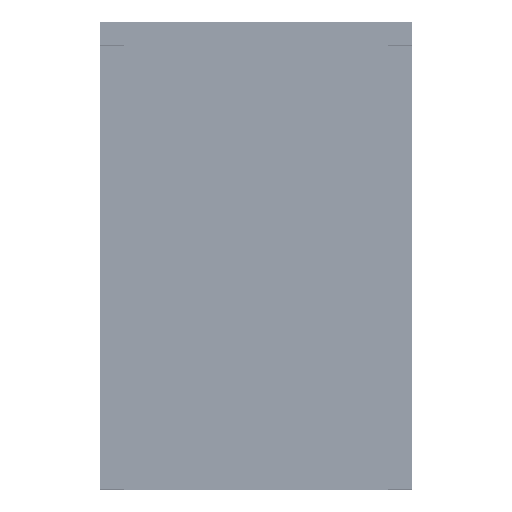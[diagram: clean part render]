
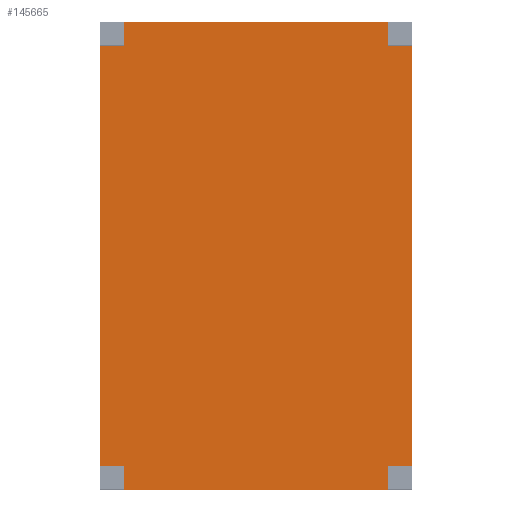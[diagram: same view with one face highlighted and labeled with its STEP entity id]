
A CAD part, top view. The second image highlights one B-rep face of the part: STEP entity #145665.
In plain terms, the highlighted planar face has unit normal (0, 0, 1) as drawn and (0, -1, 0) by its records, which use the part's own axes.
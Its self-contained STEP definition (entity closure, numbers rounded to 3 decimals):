
#14181=FACE_OUTER_BOUND('',#24875,.T.);
#24875=EDGE_LOOP('',(#102689,#102690,#102691,#102692,#102693,#102694,#102695,
#102696,#102697,#102698,#102699,#102700));
#44791=LINE('',#229177,#54977);
#44794=LINE('',#229183,#54980);
#44797=LINE('',#229189,#54983);
#44800=LINE('',#229195,#54986);
#44803=LINE('',#229201,#54989);
#44806=LINE('',#229207,#54992);
#44809=LINE('',#229213,#54995);
#44812=LINE('',#229219,#54998);
#44815=LINE('',#229225,#55001);
#44818=LINE('',#229231,#55004);
#44821=LINE('',#229237,#55007);
#44824=LINE('',#229241,#55010);
#54977=VECTOR('',#181188,10.);
#54980=VECTOR('',#181193,10.);
#54983=VECTOR('',#181198,10.);
#54986=VECTOR('',#181203,10.);
#54989=VECTOR('',#181208,10.);
#54992=VECTOR('',#181213,10.);
#54995=VECTOR('',#181218,10.);
#54998=VECTOR('',#181223,10.);
#55001=VECTOR('',#181228,10.);
#55004=VECTOR('',#181233,10.);
#55007=VECTOR('',#181238,10.);
#55010=VECTOR('',#181243,10.);
#65018=VERTEX_POINT('',#229174);
#65019=VERTEX_POINT('',#229176);
#65021=VERTEX_POINT('',#229182);
#65023=VERTEX_POINT('',#229188);
#65025=VERTEX_POINT('',#229194);
#65027=VERTEX_POINT('',#229200);
#65029=VERTEX_POINT('',#229206);
#65031=VERTEX_POINT('',#229212);
#65033=VERTEX_POINT('',#229218);
#65035=VERTEX_POINT('',#229224);
#65037=VERTEX_POINT('',#229230);
#65039=VERTEX_POINT('',#229236);
#79355=EDGE_CURVE('',#65019,#65018,#44791,.T.);
#79358=EDGE_CURVE('',#65021,#65019,#44794,.T.);
#79361=EDGE_CURVE('',#65023,#65021,#44797,.T.);
#79364=EDGE_CURVE('',#65025,#65023,#44800,.T.);
#79367=EDGE_CURVE('',#65027,#65025,#44803,.T.);
#79370=EDGE_CURVE('',#65029,#65027,#44806,.T.);
#79373=EDGE_CURVE('',#65031,#65029,#44809,.T.);
#79376=EDGE_CURVE('',#65033,#65031,#44812,.T.);
#79379=EDGE_CURVE('',#65035,#65033,#44815,.T.);
#79382=EDGE_CURVE('',#65037,#65035,#44818,.T.);
#79385=EDGE_CURVE('',#65039,#65037,#44821,.T.);
#79388=EDGE_CURVE('',#65018,#65039,#44824,.T.);
#102689=ORIENTED_EDGE('',*,*,#79388,.T.);
#102690=ORIENTED_EDGE('',*,*,#79385,.T.);
#102691=ORIENTED_EDGE('',*,*,#79382,.T.);
#102692=ORIENTED_EDGE('',*,*,#79379,.T.);
#102693=ORIENTED_EDGE('',*,*,#79376,.T.);
#102694=ORIENTED_EDGE('',*,*,#79373,.T.);
#102695=ORIENTED_EDGE('',*,*,#79370,.T.);
#102696=ORIENTED_EDGE('',*,*,#79367,.T.);
#102697=ORIENTED_EDGE('',*,*,#79364,.T.);
#102698=ORIENTED_EDGE('',*,*,#79361,.T.);
#102699=ORIENTED_EDGE('',*,*,#79358,.T.);
#102700=ORIENTED_EDGE('',*,*,#79355,.T.);
#139695=PLANE('',#159704);
#145665=ADVANCED_FACE('',(#14181),#139695,.T.);
#159704=AXIS2_PLACEMENT_3D('',#229242,#181244,#181245);
#181188=DIRECTION('',(1.,0.,0.));
#181193=DIRECTION('',(0.,0.,-1.));
#181198=DIRECTION('',(-1.,0.,0.));
#181203=DIRECTION('',(0.,0.,-1.));
#181208=DIRECTION('',(-1.,0.,0.));
#181213=DIRECTION('',(0.,0.,1.));
#181218=DIRECTION('',(-1.,0.,0.));
#181223=DIRECTION('',(0.,0.,1.));
#181228=DIRECTION('',(1.,0.,0.));
#181233=DIRECTION('',(0.,0.,1.));
#181238=DIRECTION('',(1.,0.,0.));
#181243=DIRECTION('',(0.,0.,-1.));
#181244=DIRECTION('center_axis',(0.,-1.,0.));
#181245=DIRECTION('ref_axis',(0.,0.,-1.));
#229174=CARTESIAN_POINT('',(-270.,-315.,-170.));
#229176=CARTESIAN_POINT('',(-300.,-315.,-170.));
#229177=CARTESIAN_POINT('',(-300.,-315.,-170.));
#229182=CARTESIAN_POINT('',(-300.,-315.,170.));
#229183=CARTESIAN_POINT('',(-300.,-315.,200.));
#229188=CARTESIAN_POINT('',(-270.,-315.,170.));
#229189=CARTESIAN_POINT('',(-270.,-315.,170.));
#229194=CARTESIAN_POINT('',(-270.,-315.,200.));
#229195=CARTESIAN_POINT('',(-270.,-315.,200.));
#229200=CARTESIAN_POINT('',(270.,-315.,200.));
#229201=CARTESIAN_POINT('',(300.,-315.,200.));
#229206=CARTESIAN_POINT('',(270.,-315.,170.));
#229207=CARTESIAN_POINT('',(270.,-315.,170.));
#229212=CARTESIAN_POINT('',(300.,-315.,170.));
#229213=CARTESIAN_POINT('',(300.,-315.,170.));
#229218=CARTESIAN_POINT('',(300.,-315.,-170.));
#229219=CARTESIAN_POINT('',(300.,-315.,-200.));
#229224=CARTESIAN_POINT('',(270.,-315.,-170.));
#229225=CARTESIAN_POINT('',(270.,-315.,-170.));
#229230=CARTESIAN_POINT('',(270.,-315.,-200.));
#229231=CARTESIAN_POINT('',(270.,-315.,-200.));
#229236=CARTESIAN_POINT('',(-270.,-315.,-200.));
#229237=CARTESIAN_POINT('',(-300.,-315.,-200.));
#229241=CARTESIAN_POINT('',(-270.,-315.,-170.));
#229242=CARTESIAN_POINT('Origin',(0.,-315.,0.));
